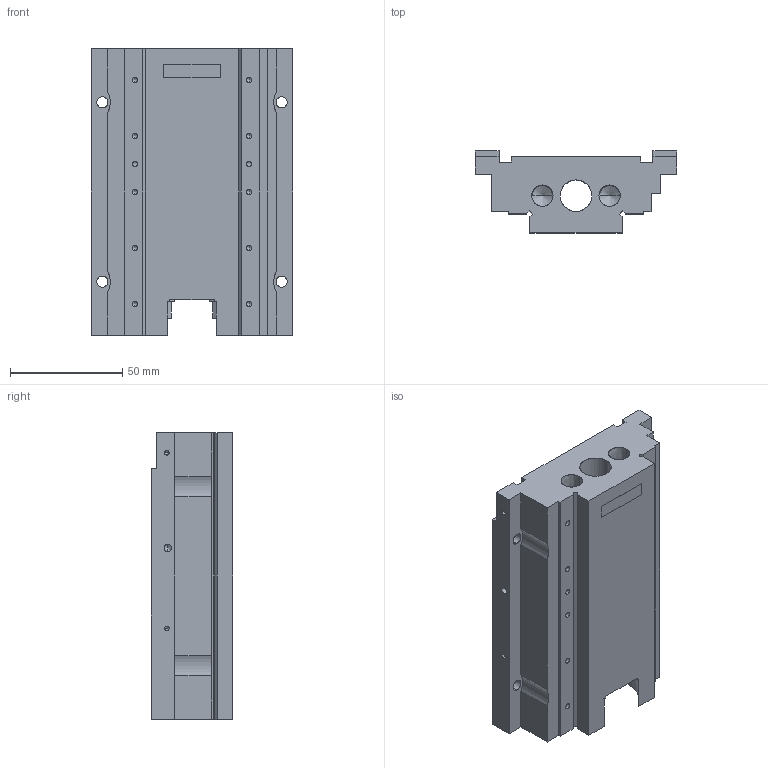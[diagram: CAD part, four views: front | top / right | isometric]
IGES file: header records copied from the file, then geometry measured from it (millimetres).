
Start section: SolidWorks IGES file using analytic representation for surfaces
Global section: file name: J:\Scolaire\BAC Pro\Epreuves professionnelles\E2\CD\Dossier Examinateurs\Dossier Ressources\chariot.IGS; native system: SolidWorks 2005 by SolidWorks Corporation; preprocessor: SolidWorks 2005 by SolidWorks Corporation; author: Famille Couzi; date: 091204.124540; units: millimetre
Bounding box: 90 x 36.5 x 128 mm (x, y, z)
Surface area: 52124.6 mm2 (no closed solid volume)
Topology: 0 solids, 0 shells, 195 faces, 3264 edges, 3222 vertices
Faces by surface type: revolution 136, bspline 59
